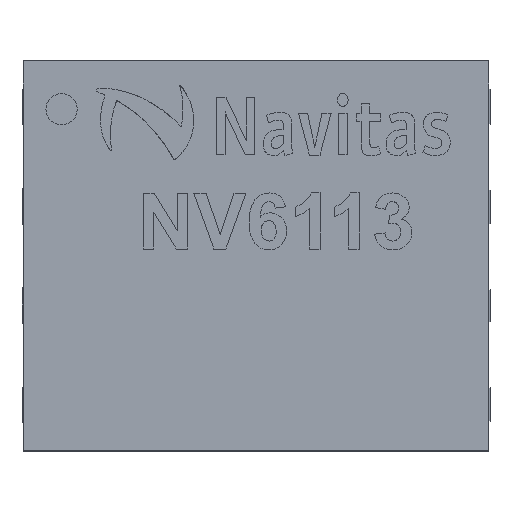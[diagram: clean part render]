
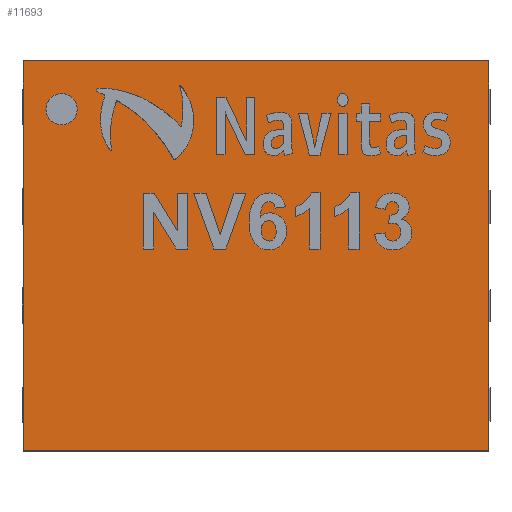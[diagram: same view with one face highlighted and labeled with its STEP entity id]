
A CAD part, top view. The second image highlights one B-rep face of the part: STEP entity #11693.
In plain terms, the highlighted planar face has unit normal (0, 0, 1).
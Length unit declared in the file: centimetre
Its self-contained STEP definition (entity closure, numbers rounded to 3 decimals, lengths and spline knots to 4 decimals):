
#1550=LINE($,#13801,#2417);
#1551=LINE($,#13803,#2418);
#1552=LINE($,#13805,#2419);
#1553=LINE($,#13806,#2420);
#2417=VECTOR($,#12593,0.5);
#2418=VECTOR($,#12594,0.5969);
#2419=VECTOR($,#12595,0.5);
#2420=VECTOR($,#12596,0.5969);
#3282=PLANE($,#12411);
#3447=FACE_BOUND($,#4129,.T.);
#3448=FACE_BOUND($,#4130,.T.);
#4129=EDGE_LOOP($,(#7942));
#4130=EDGE_LOOP($,(#7943,#7944,#7945,#7946));
#4804=CIRCLE($,#12407,0.02);
#4806=VERTEX_POINT($,#13784);
#4812=VERTEX_POINT($,#13799);
#4813=VERTEX_POINT($,#13800);
#4814=VERTEX_POINT($,#13802);
#4815=VERTEX_POINT($,#13804);
#6058=EDGE_CURVE($,#4806,#4806,#4804,.T.);
#6064=EDGE_CURVE($,#4812,#4813,#1550,.T.);
#6065=EDGE_CURVE($,#4813,#4814,#1551,.T.);
#6066=EDGE_CURVE($,#4814,#4815,#1552,.T.);
#6067=EDGE_CURVE($,#4815,#4812,#1553,.T.);
#7942=ORIENTED_EDGE($,*,*,#6058,.T.);
#7943=ORIENTED_EDGE($,*,*,#6064,.T.);
#7944=ORIENTED_EDGE($,*,*,#6065,.T.);
#7945=ORIENTED_EDGE($,*,*,#6066,.T.);
#7946=ORIENTED_EDGE($,*,*,#6067,.T.);
#11693=ADVANCED_FACE($,(#3447,#3448),#3282,.F.);
#12407=AXIS2_PLACEMENT_3D($,#13785,#12579,#12580);
#12411=AXIS2_PLACEMENT_3D($,#13798,#12591,#12592);
#12579=DIRECTION('center_axis',(0.,0.,-1.));
#12580=DIRECTION('ref_axis',(1.,0.,0.));
#12591=DIRECTION('center_axis',(0.,0.,-1.));
#12592=DIRECTION('ref_axis',(-1.,0.,0.));
#12593=DIRECTION($,(0.,1.,0.));
#12594=DIRECTION($,(-1.,0.,0.));
#12595=DIRECTION($,(0.,-1.,0.));
#12596=DIRECTION($,(1.,0.,0.));
#13784=CARTESIAN_POINT('',(-0.5702,0.4441,0.0899));
#13785=CARTESIAN_POINT('Origin',(-0.5502,0.4441,0.0899));
#13798=CARTESIAN_POINT('Origin',(-0.301,0.2561,0.0899));
#13799=CARTESIAN_POINT('',(-0.0026,0.0061,0.0899));
#13800=CARTESIAN_POINT('',(-0.0026,0.5061,0.0899));
#13801=CARTESIAN_POINT($,(-0.0026,0.2561,0.0899));
#13802=CARTESIAN_POINT('',(-0.5995,0.5061,0.0899));
#13803=CARTESIAN_POINT($,(-0.301,0.5061,0.0899));
#13804=CARTESIAN_POINT('',(-0.5995,0.0061,0.0899));
#13805=CARTESIAN_POINT($,(-0.5995,0.2561,0.0899));
#13806=CARTESIAN_POINT($,(-0.301,0.0061,0.0899));
